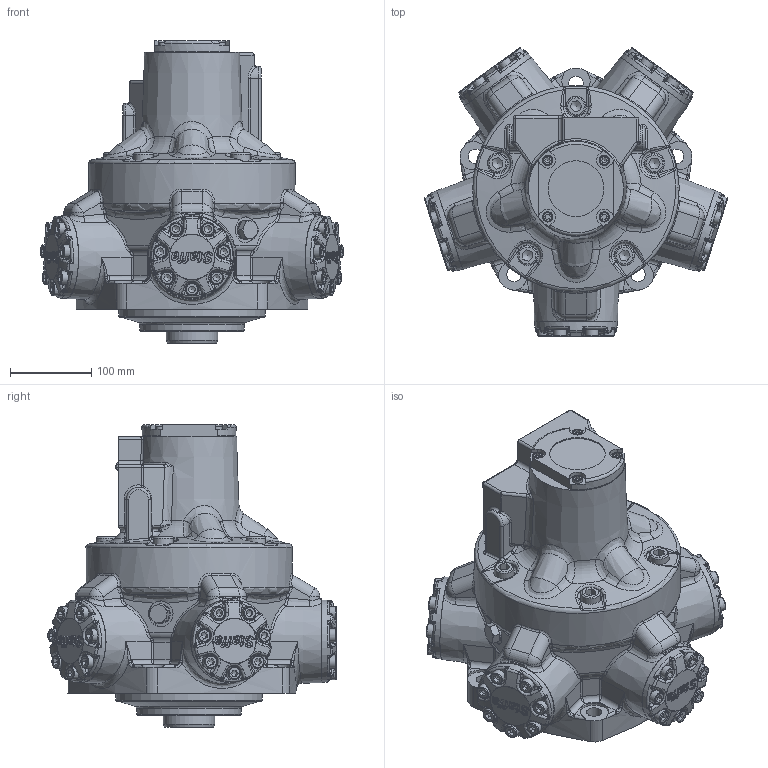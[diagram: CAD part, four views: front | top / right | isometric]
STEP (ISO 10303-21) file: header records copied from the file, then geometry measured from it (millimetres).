
FILE_DESCRIPTION(/* description */ (''),/* implementation_level */ '2;1');
FILE_NAME(/* name */ 'HMB030_R1_FM3_50.stp',/* time_stamp */ '2025-12-15T11:48:04Z',/* author */ ('ccallanga'),/* organization */ (''),/* preprocessor_version */ 'ST-DEVELOPER v20',/* originating_system */ 'Autodesk Inventor 2024',/* authorisation */ '');
FILE_SCHEMA (('AUTOMOTIVE_DESIGN { 1 0 10303 214 3 1 1 }'));
Products named in the file (1): HMB030 Web Assembly_Simplify_1
Bounding box: 373.47 x 355.32 x 372.65 mm (x, y, z)
Volume: 14737445.1 mm3; surface area: 526054.6 mm2
Topology: 1 solids, 1 shells, 4198 faces, 10092 edges, 5928 vertices
Faces by surface type: bspline 1751, plane 985, cylinder 846, torus 327, cone 153, sphere 136
Full cylindrical faces by diameter (mm): 6.2 x1, 8.376 x2, 10.109 x8, 11.328 x1, 11.913 x4, 12.7 x4, 13.614 x1, 16 x40, 16.5 x35, 17 x5, 17.78 x1, 18 x5, 23.8 x2, 23.825 x5, 25.4 x5, 31.75 x5, 43 x1, 63.474 x1, 67.564 x1, 68.58 x1, 179.934 x1, 228.613 x1, 254 x1
Entity records: 193434 total; most frequent: CARTESIAN_POINT 104503, ORIENTED_EDGE 19866, DIRECTION 13839, EDGE_CURVE 9933, VERTEX_POINT 5928, AXIS2_PLACEMENT_3D 5471, EDGE_LOOP 4399, STYLED_ITEM 4199
